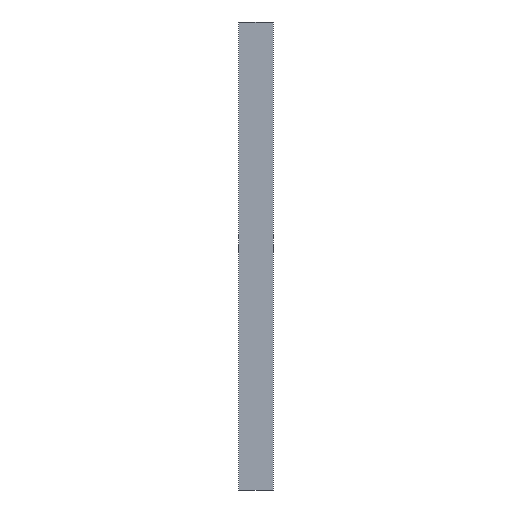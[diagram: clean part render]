
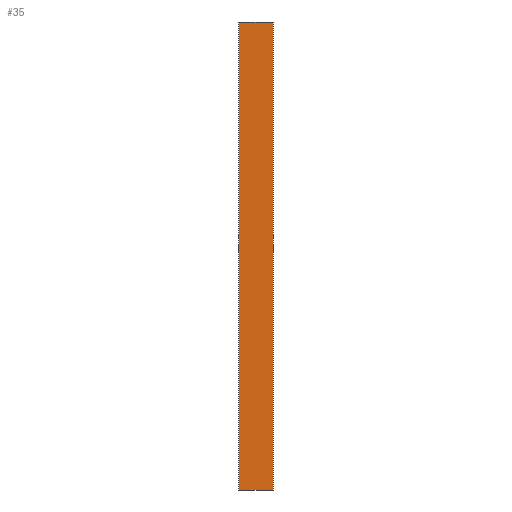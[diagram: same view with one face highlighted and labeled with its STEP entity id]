
A CAD part, left-side view. The second image highlights one B-rep face of the part: STEP entity #35.
In plain terms, the highlighted planar face has unit normal (-1, 0, 0).
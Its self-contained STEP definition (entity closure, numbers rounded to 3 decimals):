
#35 = ADVANCED_FACE('',(#36),#50,.F.);
#36 = FACE_BOUND('',#37,.F.);
#37 = EDGE_LOOP('',(#38,#73,#101,#129));
#38 = ORIENTED_EDGE('',*,*,#39,.F.);
#39 = EDGE_CURVE('',#40,#42,#44,.T.);
#40 = VERTEX_POINT('',#41);
#41 = CARTESIAN_POINT('',(-0.065,-1.15,-15.5));
#42 = VERTEX_POINT('',#43);
#43 = CARTESIAN_POINT('',(-0.065,-1.15,15.5));
#44 = SURFACE_CURVE('',#45,(#49,#61),.PCURVE_S1.);
#45 = LINE('',#46,#47);
#46 = CARTESIAN_POINT('',(-0.065,-1.15,-15.5));
#47 = VECTOR('',#48,1.);
#48 = DIRECTION('',(0.,0.,1.));
#49 = PCURVE('',#50,#55);
#50 = PLANE('',#51);
#51 = AXIS2_PLACEMENT_3D('',#52,#53,#54);
#52 = CARTESIAN_POINT('',(-0.065,-1.15,-15.5));
#53 = DIRECTION('',(1.,0.,-0.));
#54 = DIRECTION('',(0.,0.,1.));
#55 = DEFINITIONAL_REPRESENTATION('',(#56),#60);
#56 = LINE('',#57,#58);
#57 = CARTESIAN_POINT('',(0.,0.));
#58 = VECTOR('',#59,1.);
#59 = DIRECTION('',(1.,0.));
#60 = ( GEOMETRIC_REPRESENTATION_CONTEXT(2) 
PARAMETRIC_REPRESENTATION_CONTEXT() REPRESENTATION_CONTEXT('2D SPACE',''
  ) );
#61 = PCURVE('',#62,#67);
#62 = PLANE('',#63);
#63 = AXIS2_PLACEMENT_3D('',#64,#65,#66);
#64 = CARTESIAN_POINT('',(-0.065,-1.15,-15.5));
#65 = DIRECTION('',(-0.,1.,0.));
#66 = DIRECTION('',(0.,0.,1.));
#67 = DEFINITIONAL_REPRESENTATION('',(#68),#72);
#68 = LINE('',#69,#70);
#69 = CARTESIAN_POINT('',(0.,0.));
#70 = VECTOR('',#71,1.);
#71 = DIRECTION('',(1.,0.));
#72 = ( GEOMETRIC_REPRESENTATION_CONTEXT(2) 
PARAMETRIC_REPRESENTATION_CONTEXT() REPRESENTATION_CONTEXT('2D SPACE',''
  ) );
#73 = ORIENTED_EDGE('',*,*,#74,.T.);
#74 = EDGE_CURVE('',#40,#75,#77,.T.);
#75 = VERTEX_POINT('',#76);
#76 = CARTESIAN_POINT('',(-0.065,1.15,-15.5));
#77 = SURFACE_CURVE('',#78,(#82,#89),.PCURVE_S1.);
#78 = LINE('',#79,#80);
#79 = CARTESIAN_POINT('',(-0.065,-1.15,-15.5));
#80 = VECTOR('',#81,1.);
#81 = DIRECTION('',(-0.,1.,0.));
#82 = PCURVE('',#50,#83);
#83 = DEFINITIONAL_REPRESENTATION('',(#84),#88);
#84 = LINE('',#85,#86);
#85 = CARTESIAN_POINT('',(0.,0.));
#86 = VECTOR('',#87,1.);
#87 = DIRECTION('',(0.,-1.));
#88 = ( GEOMETRIC_REPRESENTATION_CONTEXT(2) 
PARAMETRIC_REPRESENTATION_CONTEXT() REPRESENTATION_CONTEXT('2D SPACE',''
  ) );
#89 = PCURVE('',#90,#95);
#90 = PLANE('',#91);
#91 = AXIS2_PLACEMENT_3D('',#92,#93,#94);
#92 = CARTESIAN_POINT('',(-0.065,-1.15,-15.5));
#93 = DIRECTION('',(0.,0.,1.));
#94 = DIRECTION('',(1.,0.,-0.));
#95 = DEFINITIONAL_REPRESENTATION('',(#96),#100);
#96 = LINE('',#97,#98);
#97 = CARTESIAN_POINT('',(0.,0.));
#98 = VECTOR('',#99,1.);
#99 = DIRECTION('',(0.,1.));
#100 = ( GEOMETRIC_REPRESENTATION_CONTEXT(2) 
PARAMETRIC_REPRESENTATION_CONTEXT() REPRESENTATION_CONTEXT('2D SPACE',''
  ) );
#101 = ORIENTED_EDGE('',*,*,#102,.T.);
#102 = EDGE_CURVE('',#75,#103,#105,.T.);
#103 = VERTEX_POINT('',#104);
#104 = CARTESIAN_POINT('',(-0.065,1.15,15.5));
#105 = SURFACE_CURVE('',#106,(#110,#117),.PCURVE_S1.);
#106 = LINE('',#107,#108);
#107 = CARTESIAN_POINT('',(-0.065,1.15,-15.5));
#108 = VECTOR('',#109,1.);
#109 = DIRECTION('',(0.,0.,1.));
#110 = PCURVE('',#50,#111);
#111 = DEFINITIONAL_REPRESENTATION('',(#112),#116);
#112 = LINE('',#113,#114);
#113 = CARTESIAN_POINT('',(0.,-2.3));
#114 = VECTOR('',#115,1.);
#115 = DIRECTION('',(1.,0.));
#116 = ( GEOMETRIC_REPRESENTATION_CONTEXT(2) 
PARAMETRIC_REPRESENTATION_CONTEXT() REPRESENTATION_CONTEXT('2D SPACE',''
  ) );
#117 = PCURVE('',#118,#123);
#118 = PLANE('',#119);
#119 = AXIS2_PLACEMENT_3D('',#120,#121,#122);
#120 = CARTESIAN_POINT('',(-0.065,1.15,-15.5));
#121 = DIRECTION('',(-0.,1.,0.));
#122 = DIRECTION('',(0.,0.,1.));
#123 = DEFINITIONAL_REPRESENTATION('',(#124),#128);
#124 = LINE('',#125,#126);
#125 = CARTESIAN_POINT('',(0.,0.));
#126 = VECTOR('',#127,1.);
#127 = DIRECTION('',(1.,0.));
#128 = ( GEOMETRIC_REPRESENTATION_CONTEXT(2) 
PARAMETRIC_REPRESENTATION_CONTEXT() REPRESENTATION_CONTEXT('2D SPACE',''
  ) );
#129 = ORIENTED_EDGE('',*,*,#130,.F.);
#130 = EDGE_CURVE('',#42,#103,#131,.T.);
#131 = SURFACE_CURVE('',#132,(#136,#143),.PCURVE_S1.);
#132 = LINE('',#133,#134);
#133 = CARTESIAN_POINT('',(-0.065,-1.15,15.5));
#134 = VECTOR('',#135,1.);
#135 = DIRECTION('',(-0.,1.,0.));
#136 = PCURVE('',#50,#137);
#137 = DEFINITIONAL_REPRESENTATION('',(#138),#142);
#138 = LINE('',#139,#140);
#139 = CARTESIAN_POINT('',(31.,0.));
#140 = VECTOR('',#141,1.);
#141 = DIRECTION('',(0.,-1.));
#142 = ( GEOMETRIC_REPRESENTATION_CONTEXT(2) 
PARAMETRIC_REPRESENTATION_CONTEXT() REPRESENTATION_CONTEXT('2D SPACE',''
  ) );
#143 = PCURVE('',#144,#149);
#144 = PLANE('',#145);
#145 = AXIS2_PLACEMENT_3D('',#146,#147,#148);
#146 = CARTESIAN_POINT('',(-0.065,-1.15,15.5));
#147 = DIRECTION('',(0.,0.,1.));
#148 = DIRECTION('',(1.,0.,-0.));
#149 = DEFINITIONAL_REPRESENTATION('',(#150),#154);
#150 = LINE('',#151,#152);
#151 = CARTESIAN_POINT('',(0.,0.));
#152 = VECTOR('',#153,1.);
#153 = DIRECTION('',(0.,1.));
#154 = ( GEOMETRIC_REPRESENTATION_CONTEXT(2) 
PARAMETRIC_REPRESENTATION_CONTEXT() REPRESENTATION_CONTEXT('2D SPACE',''
  ) );
